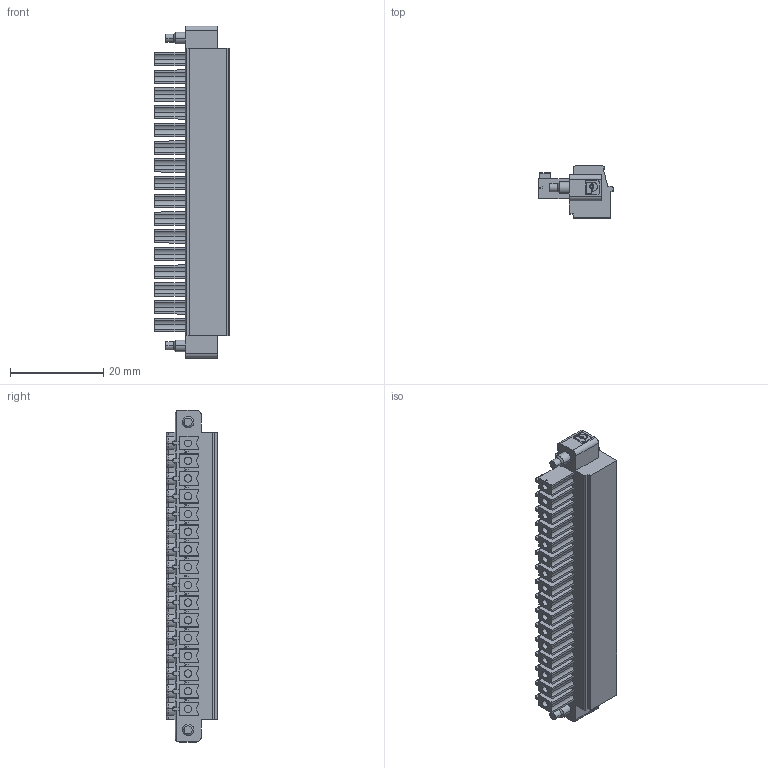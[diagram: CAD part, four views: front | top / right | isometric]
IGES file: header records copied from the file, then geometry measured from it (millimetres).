
Start section:  PTC IGES file: cu_usb-621x_conn_kit.igs
Global section: file name: cu_usb-621x_conn_kit.igs; native system: Pro/ENGINEER by Parametric Technology Corporation; preprocessor: 2006510; author: chrisj; organization: Unknown; date: 20100721.081409; units: inch
Bounding box: 16.1 x 11.1 x 71.35 mm (x, y, z)
Surface area: 5729.4 mm2 (no closed solid volume)
Topology: 0 solids, 0 shells, 1218 faces, 6404 edges, 6354 vertices
Faces by surface type: bspline 644, revolution 574
